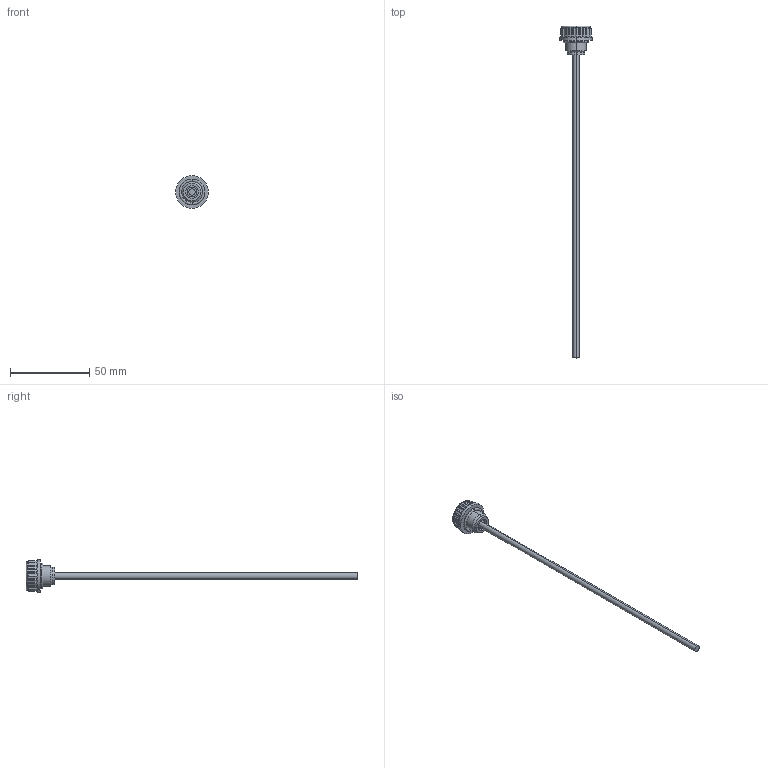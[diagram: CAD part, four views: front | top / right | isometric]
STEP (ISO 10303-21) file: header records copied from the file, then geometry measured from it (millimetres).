
FILE_DESCRIPTION (( 'STEP AP203' ), '1' );
FILE_NAME ('Wiberger-wn9132_1-4tum.step', '2012-09-21T10:33:56', ( 'Magnus' ), ( 'Wiberger' ), 'SwSTEP 2.0', 'SolidWorks 2011', '' );
FILE_SCHEMA (( 'CONFIG_CONTROL_DESIGN' ));
Length unit declared in the file: millimetre
Products named in the file (1): Wiberger-wn9132_1-4tum
Bounding box: 20.5 x 209 x 20.5 mm (x, y, z)
Volume: 6015.7 mm3; surface area: 4508.6 mm2
Topology: 3 solids, 3 shells, 151 faces, 392 edges, 202 vertices
Faces by surface type: cylinder 86, torus 54, plane 9, cone 2
Entity records: 4471 total; most frequent: CARTESIAN_POINT 938, DIRECTION 808, ORIENTED_EDGE 688, AXIS2_PLACEMENT_3D 360, EDGE_CURVE 344, CIRCLE 208, VERTEX_POINT 202, EDGE_LOOP 156
